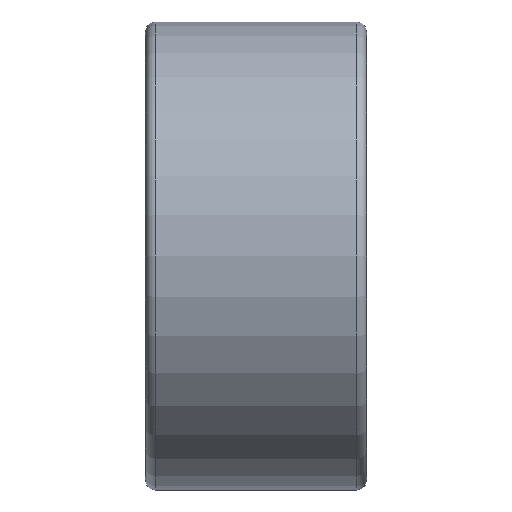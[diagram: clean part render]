
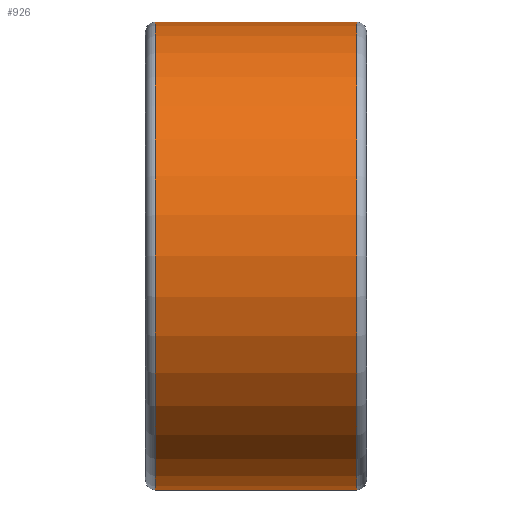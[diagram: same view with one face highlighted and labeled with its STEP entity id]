
A CAD part, front view. The second image highlights one B-rep face of the part: STEP entity #926.
In plain terms, the highlighted cylindrical face has radius 23.5 mm (diameter 47 mm), a full revolution.
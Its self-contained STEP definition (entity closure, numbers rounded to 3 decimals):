
#220=FACE_OUTER_BOUND('',#277,.T.);
#277=EDGE_LOOP('',(#819,#820,#821,#822,#823,#824));
#304=LINE('',#2247,#319);
#319=VECTOR('',#1440,23.5);
#396=CIRCLE('',#1139,23.5);
#397=CIRCLE('',#1140,23.5);
#399=CIRCLE('',#1143,23.5);
#400=CIRCLE('',#1144,23.5);
#483=VERTEX_POINT('',#2238);
#484=VERTEX_POINT('',#2239);
#485=VERTEX_POINT('',#2244);
#486=VERTEX_POINT('',#2245);
#597=EDGE_CURVE('',#483,#484,#396,.T.);
#598=EDGE_CURVE('',#484,#483,#397,.T.);
#600=EDGE_CURVE('',#485,#486,#399,.T.);
#601=EDGE_CURVE('',#485,#483,#304,.T.);
#602=EDGE_CURVE('',#486,#485,#400,.T.);
#819=ORIENTED_EDGE('',*,*,#600,.F.);
#820=ORIENTED_EDGE('',*,*,#601,.T.);
#821=ORIENTED_EDGE('',*,*,#597,.T.);
#822=ORIENTED_EDGE('',*,*,#598,.T.);
#823=ORIENTED_EDGE('',*,*,#601,.F.);
#824=ORIENTED_EDGE('',*,*,#602,.F.);
#881=CYLINDRICAL_SURFACE('',#1142,23.5);
#926=ADVANCED_FACE('',(#220),#881,.T.);
#1139=AXIS2_PLACEMENT_3D('',#2240,#1430,#1431);
#1140=AXIS2_PLACEMENT_3D('',#2241,#1432,#1433);
#1142=AXIS2_PLACEMENT_3D('',#2243,#1436,#1437);
#1143=AXIS2_PLACEMENT_3D('',#2246,#1438,#1439);
#1144=AXIS2_PLACEMENT_3D('',#2248,#1441,#1442);
#1430=DIRECTION('center_axis',(1.,0.,0.));
#1431=DIRECTION('ref_axis',(0.,0.,-1.));
#1432=DIRECTION('center_axis',(1.,0.,0.));
#1433=DIRECTION('ref_axis',(0.,0.,-1.));
#1436=DIRECTION('center_axis',(1.,0.,0.));
#1437=DIRECTION('ref_axis',(0.,1.,0.));
#1438=DIRECTION('center_axis',(1.,0.,0.));
#1439=DIRECTION('ref_axis',(0.,0.,-1.));
#1440=DIRECTION('',(-1.,0.,0.));
#1441=DIRECTION('center_axis',(1.,0.,0.));
#1442=DIRECTION('ref_axis',(0.,0.,-1.));
#2238=CARTESIAN_POINT('',(-10.1,-23.5,0.));
#2239=CARTESIAN_POINT('',(-10.1,0.,23.5));
#2240=CARTESIAN_POINT('Origin',(-10.1,0.,0.));
#2241=CARTESIAN_POINT('Origin',(-10.1,0.,0.));
#2243=CARTESIAN_POINT('Origin',(0.,0.,0.));
#2244=CARTESIAN_POINT('',(10.1,-23.5,0.));
#2245=CARTESIAN_POINT('',(10.1,0.,23.5));
#2246=CARTESIAN_POINT('Origin',(10.1,0.,0.));
#2247=CARTESIAN_POINT('',(0.,-23.5,0.));
#2248=CARTESIAN_POINT('Origin',(10.1,0.,0.));
